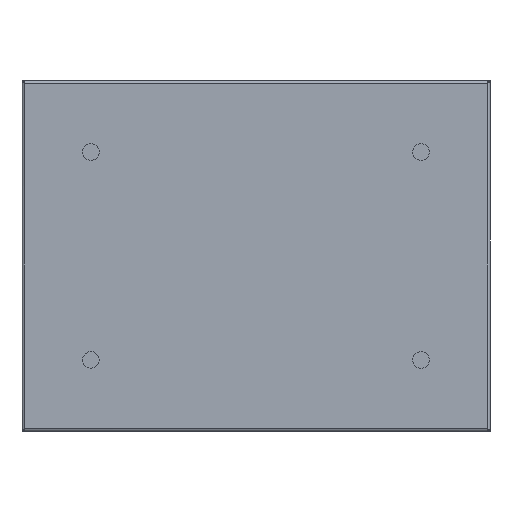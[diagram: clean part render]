
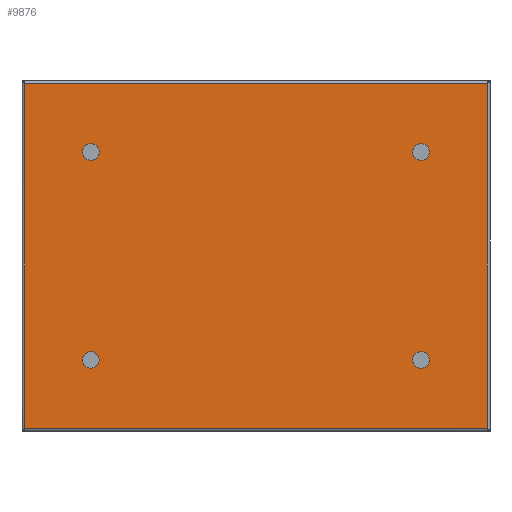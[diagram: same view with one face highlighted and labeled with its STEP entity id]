
A CAD part, top view. The second image highlights one B-rep face of the part: STEP entity #9876.
In plain terms, the highlighted planar face has unit normal (0, 0, 1).
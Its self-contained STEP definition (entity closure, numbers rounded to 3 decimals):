
#4296=CARTESIAN_POINT(' ',(391.7,292.7,0.));
#4297=VERTEX_POINT(' ',#4296);
#4906=CARTESIAN_POINT(' ',(391.7,2.3,0.));
#4907=VERTEX_POINT(' ',#4906);
#5881=CARTESIAN_POINT(' ',(391.7,292.7,0.));
#5886=DIRECTION(' ',(0.,-1.,0.));
#5891=VECTOR(' ',#5886,1.);
#5896=LINE('',#5881,#5891);
#5901=EDGE_CURVE(' ',#4297,#4907,#5896,.T.);
#7911=CARTESIAN_POINT(' ',(2.3,2.3,0.));
#7912=VERTEX_POINT(' ',#7911);
#8506=CARTESIAN_POINT(' ',(2.3,292.7,0.));
#8507=VERTEX_POINT(' ',#8506);
#9746=DIRECTION(' ',(-0.,-0.,1.));
#9751=CARTESIAN_POINT(' ',(391.7,2.3,0.));
#9756=DIRECTION(' ',(0.,1.,0.));
#9761=AXIS2_PLACEMENT_3D(' ',#9751,#9746,#9756);
#9766=PLANE('NONE',#9761);
#9771=CARTESIAN_POINT(' ',(2.3,2.3,0.));
#9776=DIRECTION(' ',(1.,0.,0.));
#9781=VECTOR(' ',#9776,1.);
#9786=LINE('',#9771,#9781);
#9791=EDGE_CURVE(' ',#7912,#4907,#9786,.T.);
#9796=ORIENTED_EDGE(' ',*,*,#9791,.T.);
#9801=ORIENTED_EDGE(' ',*,*,#5901,.F.);
#9806=CARTESIAN_POINT(' ',(391.7,292.7,0.));
#9811=DIRECTION(' ',(-1.,0.,0.));
#9816=VECTOR(' ',#9811,1.);
#9821=LINE('',#9806,#9816);
#9826=EDGE_CURVE(' ',#4297,#8507,#9821,.T.);
#9831=ORIENTED_EDGE(' ',*,*,#9826,.T.);
#9836=CARTESIAN_POINT(' ',(2.3,292.7,0.));
#9841=DIRECTION(' ',(0.,-1.,0.));
#9846=VECTOR(' ',#9841,1.);
#9851=LINE('',#9836,#9846);
#9856=EDGE_CURVE(' ',#8507,#7912,#9851,.T.);
#9861=ORIENTED_EDGE(' ',*,*,#9856,.T.);
#9866=EDGE_LOOP(' ',(#9796,#9801,#9831,#9861));
#9871=FACE_OUTER_BOUND(' ',#9866,.T.);
#9876=ADVANCED_FACE('NONE',(#9871),#9766,.T.);
